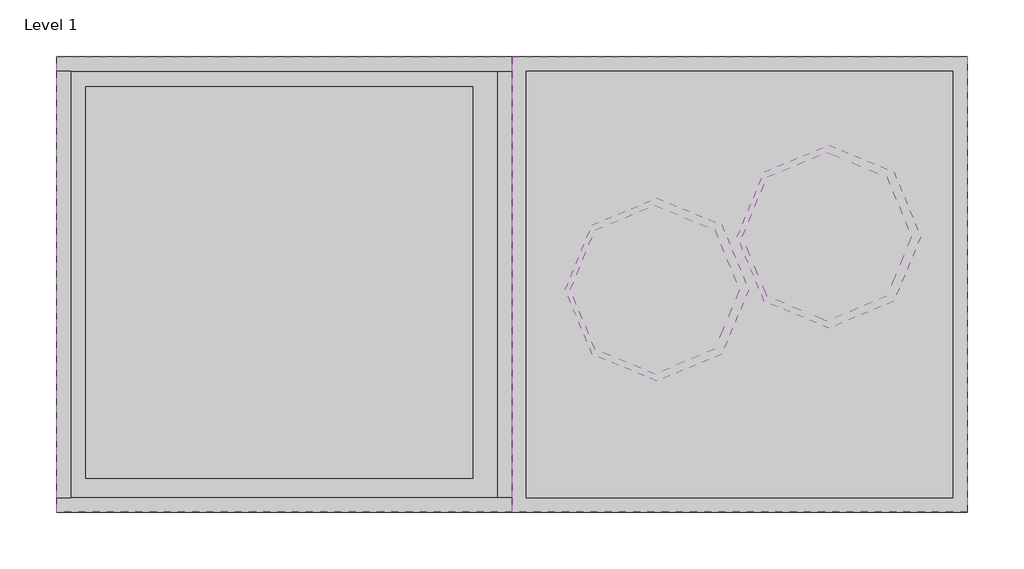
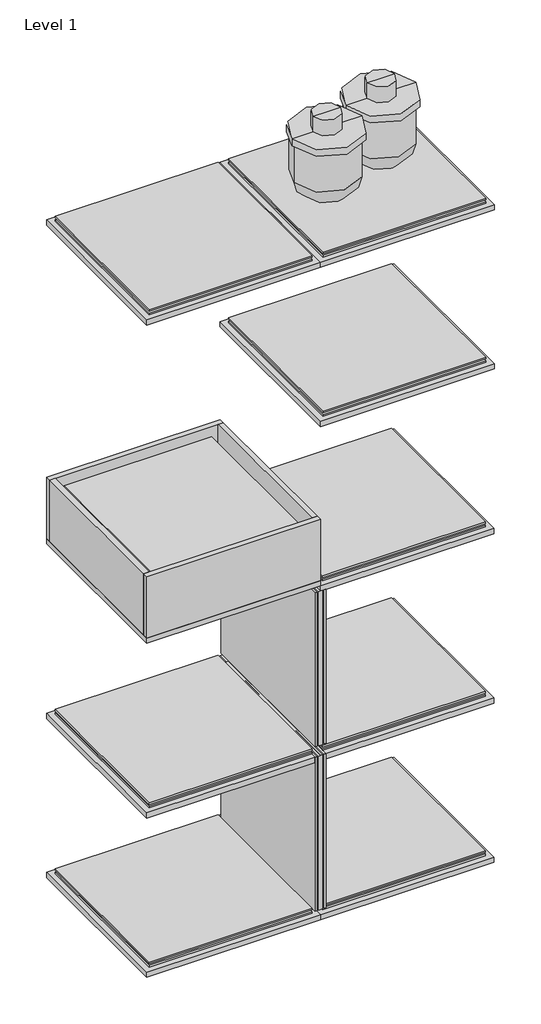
# One storey, incomplete: 11 furniture elements, 4 proxies, 1 geographic element.
"""IFC4 building model written with IfcOpenShell, lengths in millimetres."""

from ifc_helpers import new_model, si_unit, origin, place, context, project, spatial, transform, mapped, element, save
from components import generic_models_29f3e5fd, generic_models_bc746b38, furniture_shelving_storage_grid_double_side_colour_black_ral_d8258e37, furniture_shelving_storage_grid_top_base_panel_size_and_cf4f366d, furniture_shelving_storage_grid_top_box_colour_oak_e10ae7cb, only_plant_only_plant_8fcf59e9

model = new_model("IFC4")

# Units and contexts
model_context = context("Model", 3, world=origin())
ifc_project = project(units=[si_unit("LENGTHUNIT", "METRE", prefix="MILLI")], contexts=[model_context])

# Site, building, storey
site = spatial("IfcSite", under=ifc_project)
building = spatial("IfcBuilding", under=site)
storey = spatial("IfcBuildingStorey", under=building, Name="Level 1", Elevation=0.0)

# Proxies
placement = place(None, origin())
generic_models_shape = generic_models_29f3e5fd(model_context)
element("IfcBuildingElementProxy", 1, Name="mug Showpeace : mug Showpeace", ObjectType="mug Showpeace : mug Showpeace", at=placement, inside=storey, context=model_context, shape_type="MappedRepresentation", body=[
    mapped(generic_models_shape, transform((1011.1959589, 242.5000002, 948.9896903), x_axis=(1.0, 0.0, 0.0), y_axis=(0.0, 1.0, 0.0), z_axis=(0.0, 0.0, 1.0))),
])
element("IfcBuildingElementProxy", 2, Name="mug Showpeace : mug Showpeace", ObjectType="mug Showpeace : mug Showpeace", at=placement, inside=storey, context=model_context, shape_type="MappedRepresentation", body=[
    mapped(generic_models_shape, transform((859.6115761, 195.8407425, 948.9896903), x_axis=(1.0, 0.0, 0.0), y_axis=(0.0, 1.0, 0.0), z_axis=(0.0, 0.0, 1.0))),
])
generic_models_2_shape = generic_models_bc746b38(model_context)
element("IfcBuildingElementProxy", 3, Name="mug Showpeace : mug Showpeace", ObjectType="mug Showpeace : mug Showpeace", at=placement, inside=storey, context=model_context, shape_type="MappedRepresentation", body=[
    mapped(generic_models_2_shape, transform((1011.1959589, 242.5000002, 948.9896903), x_axis=(1.0, 0.0, 0.0), y_axis=(0.0, 1.0, 0.0), z_axis=(0.0, 0.0, 1.0))),
])
element("IfcBuildingElementProxy", 4, Name="mug Showpeace : mug Showpeace", ObjectType="mug Showpeace : mug Showpeace", at=placement, inside=storey, context=model_context, shape_type="MappedRepresentation", body=[
    mapped(generic_models_2_shape, transform((859.6115761, 195.8407425, 948.9896903), x_axis=(1.0, 0.0, 0.0), y_axis=(0.0, 1.0, 0.0), z_axis=(0.0, 0.0, 1.0))),
])

# Furniture
furniture_shelving_storage_grid_double_side_colour_black_ral_shape = furniture_shelving_storage_grid_double_side_colour_black_ral_d8258e37(model_context)
element("IfcFurniture", 5, ObjectType="Furniture_Shelving-Storage_Grid_Double-Side : Colour - (Black RAL 9011)", at=placement, inside=storey, context=model_context, shape_type="MappedRepresentation", body=[
    mapped(furniture_shelving_storage_grid_double_side_colour_black_ral_shape, transform((538.4219996, 187.9998998, 77.8092697), x_axis=(1.0, 0.0, 0.0), y_axis=(0.0, 1.0, 0.0), z_axis=(0.0, 0.0, 1.0))),
])
element("IfcFurniture", 6, ObjectType="Furniture_Shelving-Storage_Grid_Double-Side : Colour - (Black RAL 9011)", at=placement, inside=storey, context=model_context, shape_type="MappedRepresentation", body=[
    mapped(furniture_shelving_storage_grid_double_side_colour_black_ral_shape, transform((538.4219996, 187.9998998, 478.8092697), x_axis=(1.0, 0.0, 0.0), y_axis=(0.0, 1.0, 0.0), z_axis=(0.0, 0.0, 1.0))),
])
furniture_shelving_storage_grid_top_base_panel_size_and_shape = furniture_shelving_storage_grid_top_base_panel_size_and_cf4f366d(model_context)
element("IfcFurniture", 7, ObjectType="Furniture_Shelving-Storage_Grid_Top-Base-Panel : Size and color - (1x1 Black RAL 9011)", at=placement, inside=storey, context=model_context, shape_type="MappedRepresentation", body=[
    mapped(furniture_shelving_storage_grid_top_base_panel_size_and_shape, transform((337.9216474, 200.5004543, 65.0092697), x_axis=(-1.0, 0.0, 0.0), y_axis=(0.0, -1.0, 0.0), z_axis=(0.0, 0.0, 1.0))),
])
element("IfcFurniture", 8, ObjectType="Furniture_Shelving-Storage_Grid_Top-Base-Panel : Size and color - (1x1 Black RAL 9011)", at=placement, inside=storey, context=model_context, shape_type="MappedRepresentation", body=[
    mapped(furniture_shelving_storage_grid_top_base_panel_size_and_shape, transform((739.1224032, 200.4995461, 1268.5092697), x_axis=(1.0, 0.0, 0.0), y_axis=(0.0, 1.0, 0.0), z_axis=(0.0, 0.0, 1.0))),
])
element("IfcFurniture", 9, ObjectType="Furniture_Shelving-Storage_Grid_Top-Base-Panel : Size and color - (1x1 Black RAL 9011)", at=placement, inside=storey, context=model_context, shape_type="MappedRepresentation", body=[
    mapped(furniture_shelving_storage_grid_top_base_panel_size_and_shape, transform((739.1224032, 200.4995461, 1656.5092697), x_axis=(1.0, 0.0, 0.0), y_axis=(0.0, 1.0, 0.0), z_axis=(0.0, 0.0, 1.0))),
])
element("IfcFurniture", 10, ObjectType="Furniture_Shelving-Storage_Grid_Top-Base-Panel : Size and color - (1x1 Black RAL 9011)", at=placement, inside=storey, context=model_context, shape_type="MappedRepresentation", body=[
    mapped(furniture_shelving_storage_grid_top_base_panel_size_and_shape, transform((338.1224032, 200.4995461, 1656.5092697), x_axis=(1.0, 0.0, 0.0), y_axis=(0.0, 1.0, 0.0), z_axis=(0.0, 0.0, 1.0))),
])
element("IfcFurniture", 11, ObjectType="Furniture_Shelving-Storage_Grid_Top-Base-Panel : Size and color - (1x1 Black RAL 9011)", at=placement, inside=storey, context=model_context, shape_type="MappedRepresentation", body=[
    mapped(furniture_shelving_storage_grid_top_base_panel_size_and_shape, transform((738.9224032, 200.4995461, 867.0092698), x_axis=(1.0, 0.0, 0.0), y_axis=(0.0, 1.0, 0.0), z_axis=(0.0, 0.0, 1.0))),
])
element("IfcFurniture", 12, ObjectType="Furniture_Shelving-Storage_Grid_Top-Base-Panel : Size and color - (1x1 Black RAL 9011)", at=placement, inside=storey, context=model_context, shape_type="MappedRepresentation", body=[
    mapped(furniture_shelving_storage_grid_top_base_panel_size_and_shape, transform((738.9216474, 200.5004543, 65.0092697), x_axis=(-1.0, 0.0, 0.0), y_axis=(0.0, -1.0, 0.0), z_axis=(0.0, 0.0, 1.0))),
])
element("IfcFurniture", 13, ObjectType="Furniture_Shelving-Storage_Grid_Top-Base-Panel : Size and color - (1x1 Black RAL 9011)", at=placement, inside=storey, context=model_context, shape_type="MappedRepresentation", body=[
    mapped(furniture_shelving_storage_grid_top_base_panel_size_and_shape, transform((337.9216474, 200.5004543, 453.5092697), x_axis=(-1.0, 0.0, 0.0), y_axis=(0.0, -1.0, 0.0), z_axis=(0.0, 0.0, 1.0))),
])
element("IfcFurniture", 14, ObjectType="Furniture_Shelving-Storage_Grid_Top-Base-Panel : Size and color - (1x1 Black RAL 9011)", at=placement, inside=storey, context=model_context, shape_type="MappedRepresentation", body=[
    mapped(furniture_shelving_storage_grid_top_base_panel_size_and_shape, transform((738.9216474, 200.5004543, 453.5092697), x_axis=(-1.0, 0.0, 0.0), y_axis=(0.0, -1.0, 0.0), z_axis=(0.0, 0.0, 1.0))),
])
furniture_shelving_storage_grid_top_box_colour_oak_shape = furniture_shelving_storage_grid_top_box_colour_oak_e10ae7cb(model_context)
element("IfcFurniture", 15, ObjectType="Furniture_Shelving-Storage_Grid_Top-Box : Colour - (Oak)", at=placement, inside=storey, context=model_context, shape_type="MappedRepresentation", body=[
    mapped(furniture_shelving_storage_grid_top_box_colour_oak_shape, transform((337.9168197, 200.5000002, 479.0092698), x_axis=(1.0, 0.0, 0.0), y_axis=(0.0, 1.0, 0.0), z_axis=(0.0, 0.0, 1.0))),
])

# Geographic element
only_plant_only_plant_shape = only_plant_only_plant_8fcf59e9(model_context)
element("IfcGeographicElement", 16, ObjectType="Only Plant : Only Plant", at=placement, inside=storey, context=model_context, shape_type="MappedRepresentation", body=[
    mapped(only_plant_only_plant_shape, transform((327.822051, 196.6000002, 880.2092698), x_axis=(1.0, 0.0, 0.0), y_axis=(0.0, 1.0, 0.0), z_axis=(0.0, 0.0, 1.0))),
])

save(model, "model.ifc")
